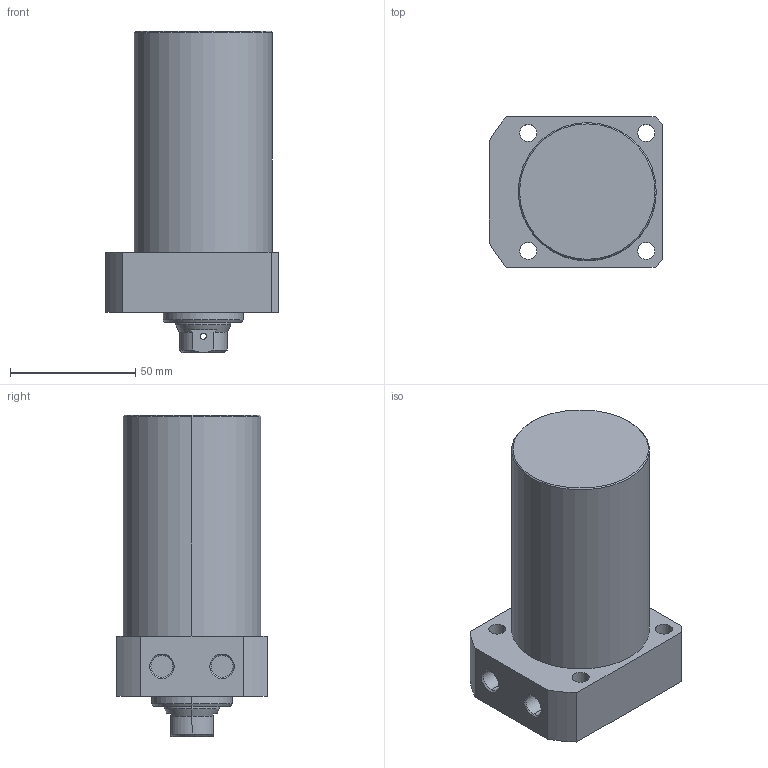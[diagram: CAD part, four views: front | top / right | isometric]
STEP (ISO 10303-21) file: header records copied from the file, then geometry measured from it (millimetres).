
FILE_DESCRIPTION (( 'STEP AP203' ), '1' );
FILE_NAME ('CLLR-055CB-075.STEP', '2019-12-19T07:54:23', ( '' ), ( '' ), 'SwSTEP 2.0', 'SolidWorks 2015', '' );
FILE_SCHEMA (( 'CONFIG_CONTROL_DESIGN' ));
Length unit declared in the file: millimetre
Products named in the file (1): CLLR-055CB-075
Bounding box: 69 x 60 x 128 mm (x, y, z)
Volume: 306670.1 mm3; surface area: 33431.8 mm2
Topology: 1 solids, 1 shells, 69 faces, 163 edges, 102 vertices
Faces by surface type: cylinder 33, plane 19, cone 17
Entity records: 2183 total; most frequent: CARTESIAN_POINT 453, DIRECTION 368, ORIENTED_EDGE 322, EDGE_CURVE 161, AXIS2_PLACEMENT_3D 149, VERTEX_POINT 102, EDGE_LOOP 89, CIRCLE 79
